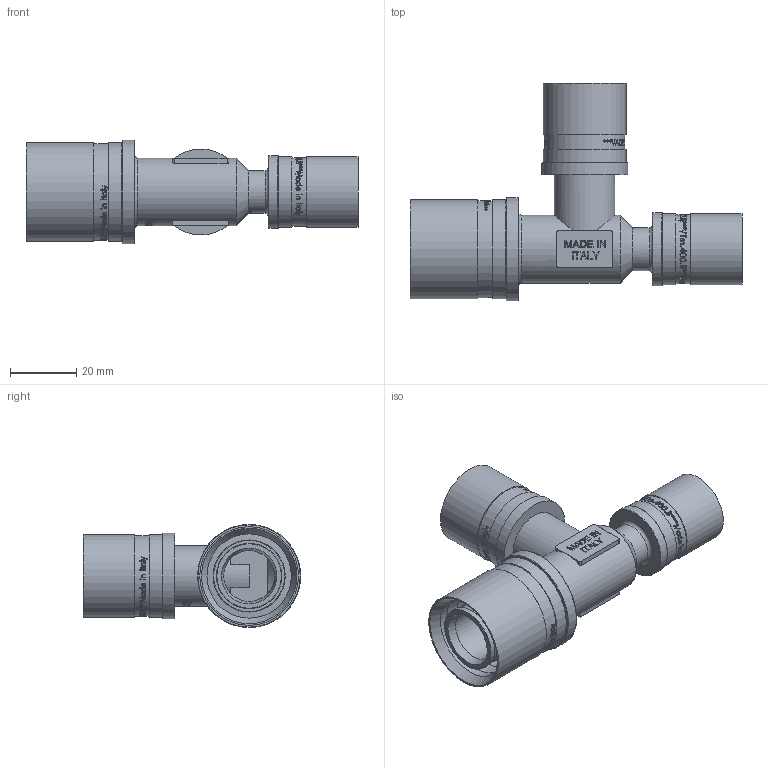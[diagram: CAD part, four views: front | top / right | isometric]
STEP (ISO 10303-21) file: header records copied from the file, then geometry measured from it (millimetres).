
FILE_DESCRIPTION(/* description */ (''),/* implementation_level */ '2;1');
FILE_NAME(/* name */ 'F:\Артём\00000\Работа удаленка\Аксеальные фитинги\VTm.431.BG.252016.stp',/* time_stamp */ '2021-01-26T12:54:09+03:00',/* author */ ('almis'),/* organization */ (''),/* preprocessor_version */ 'ST-DEVELOPER v18',/* originating_system */ 'Autodesk Inventor 2020',/* authorisation */ '');
FILE_SCHEMA (('AUTOMOTIVE_DESIGN { 1 0 10303 214 3 1 1 }'));
Length unit declared in the file: millimetre
Products named in the file (1): VTm.403.BG.001616
Bounding box: 100.37 x 65.75 x 31.2 mm (x, y, z)
Volume: 31319.5 mm3; surface area: 27672.8 mm2
Topology: 1 solids, 3 shells, 2453 faces, 6717 edges, 4511 vertices
Faces by surface type: bspline 1266, plane 851, cylinder 268, torus 46, cone 22
Full cylindrical faces by diameter (mm): 10 x1, 12.6 x1, 12.8 x5, 13 x1, 13.4 x4, 15 x1, 15.4 x1, 15.7 x5, 16.5 x4, 16.9 x2, 18.2 x1, 18.3 x1, 18.8 x5, 19.8 x4, 20.5 x1, 20.65 x2, 20.8 x1, 21.4 x2, 21.8 x1, 22 x1, 24.3 x1, 25 x2, 25.5 x2, 26 x1, 29.3 x1, 29.85 x2, 31.2 x1
Entity records: 101294 total; most frequent: CARTESIAN_POINT 46560, ORIENTED_EDGE 13434, DIRECTION 7658, EDGE_CURVE 6717, VERTEX_POINT 4511, LINE 3026, VECTOR 3026, EDGE_LOOP 2700
